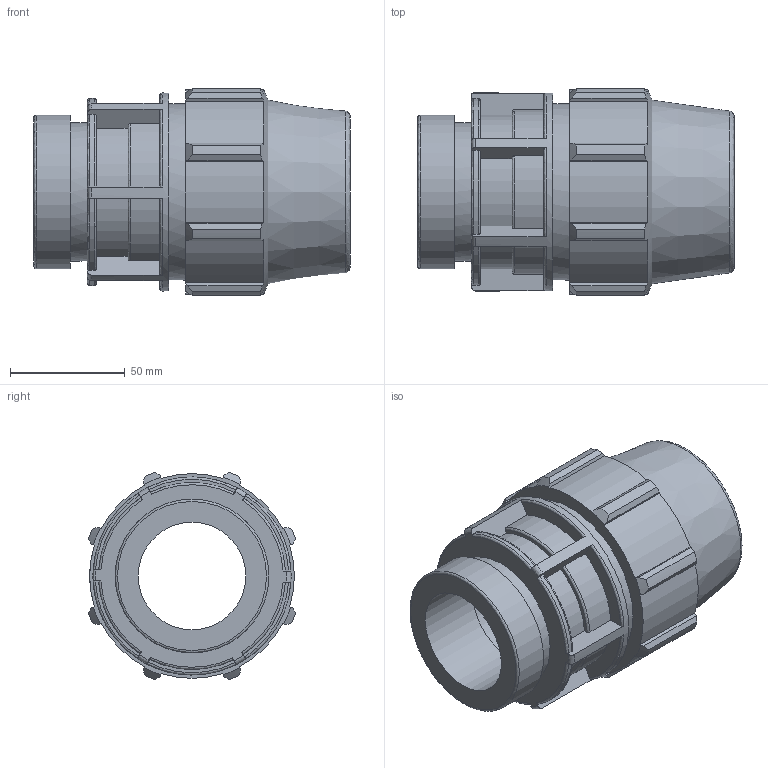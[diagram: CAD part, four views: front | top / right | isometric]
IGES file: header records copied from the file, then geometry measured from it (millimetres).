
Global section: file name: 073200050020_183200050020_0732060500200A.ipt; native system: Autodesk Inventor 2015; preprocessor: unknown; author: Кирилл,,11,0; organization: 20170224.180708; date: 20170606.110608; units: millimetre
Bounding box: 138 x 90.33 x 90.33 mm (x, y, z)
Volume: 386716.9 mm3; surface area: 73149.1 mm2
Topology: 1 solids, 1 shells, 154 faces, 445 edges, 299 vertices
Faces by surface type: plane 70, cylinder 38, revolution 36, cone 10
Full cylindrical faces by diameter (mm): 60.3 x1, 67 x1, 76.8 x1, 86.4 x1
